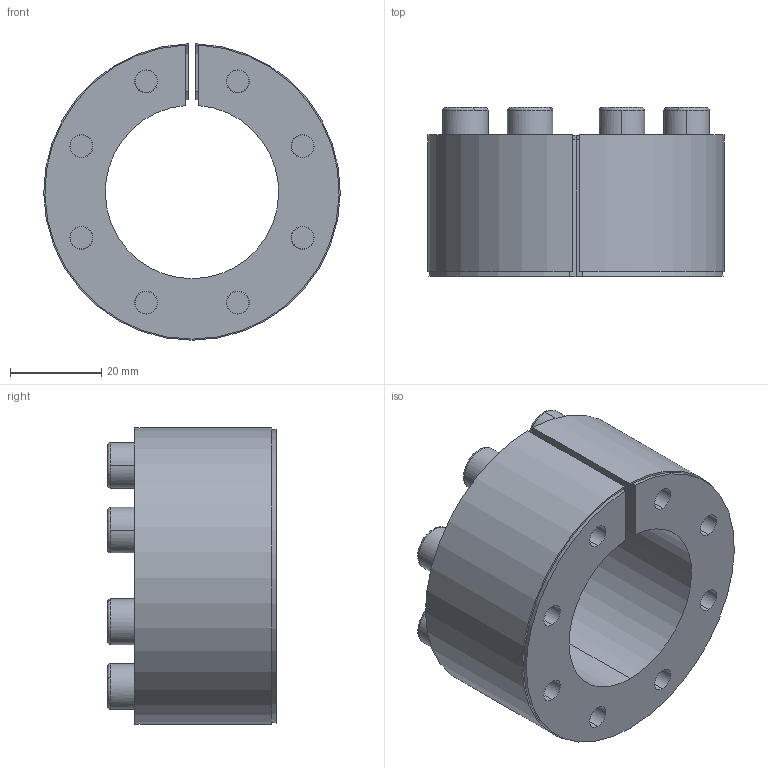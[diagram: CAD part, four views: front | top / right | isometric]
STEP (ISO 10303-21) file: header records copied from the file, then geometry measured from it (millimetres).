
FILE_DESCRIPTION (( 'STEP AP214' ), '1' );
FILE_NAME ('CONEX-K-38x65.step', '2015-09-15T13:15:51', ( '' ), ( '' ), 'SwSTEP 2.0', 'SolidWorks 2013', '' );
FILE_SCHEMA (( 'AUTOMOTIVE_DESIGN' ));
Length unit declared in the file: millimetre
Products named in the file (1): CONEX-K-38x65
Bounding box: 65 x 37 x 64.99 mm (x, y, z)
Volume: 55757.8 mm3; surface area: 36500.6 mm2
Topology: 10 solids, 10 shells, 280 faces, 699 edges, 439 vertices
Faces by surface type: plane 130, cylinder 78, cone 40, bspline 32
Entity records: 12523 total; most frequent: CARTESIAN_POINT 2579, DIRECTION 1462, ORIENTED_EDGE 1366, EDGE_CURVE 683, AXIS2_PLACEMENT_3D 570, VERTEX_POINT 439, EDGE_LOOP 336, VECTOR 322
